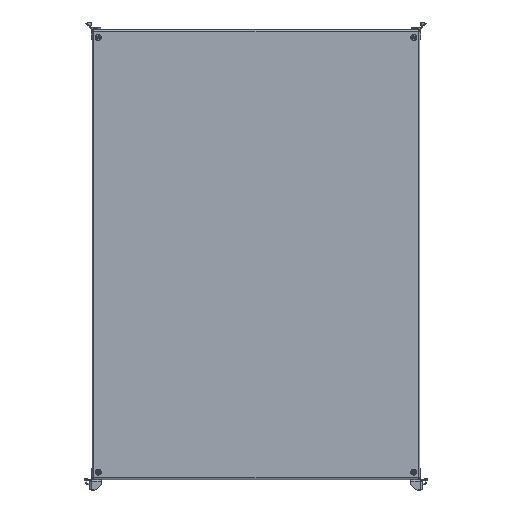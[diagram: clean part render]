
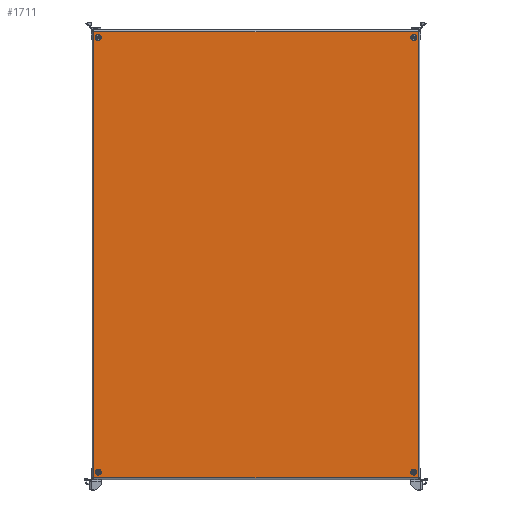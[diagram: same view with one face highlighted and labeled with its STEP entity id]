
A CAD part, top view. The second image highlights one B-rep face of the part: STEP entity #1711.
In plain terms, the highlighted planar face has unit normal (0, 0, 1).
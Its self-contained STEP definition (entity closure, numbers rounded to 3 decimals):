
#1711=ADVANCED_FACE('',(#9113,#9115,#9117,#9119,#9121),#9123,.T.);
#9113=FACE_BOUND('',#9114,.T.);
#9114=EDGE_LOOP('',(#16128,#16129,#16130,#16131));
#9115=FACE_BOUND('',#9116,.T.);
#9116=EDGE_LOOP('',(#16132));
#9117=FACE_BOUND('',#9118,.T.);
#9118=EDGE_LOOP('',(#16133));
#9119=FACE_BOUND('',#9120,.T.);
#9120=EDGE_LOOP('',(#16134));
#9121=FACE_BOUND('',#9122,.T.);
#9122=EDGE_LOOP('',(#16135));
#9123=PLANE('',#9124);
#9124=AXIS2_PLACEMENT_3D('',#9125,#9126,#9127);
#9125=CARTESIAN_POINT('',(0.,0.,3.));
#9126=DIRECTION('',(0.,0.,1.));
#9127=DIRECTION('',(1.,0.,0.));
#16128=ORIENTED_EDGE('',*,*,#19785,.T.);
#16129=ORIENTED_EDGE('',*,*,#19632,.T.);
#16130=ORIENTED_EDGE('',*,*,#19786,.T.);
#16131=ORIENTED_EDGE('',*,*,#19787,.T.);
#16132=ORIENTED_EDGE('',*,*,#19788,.T.);
#16133=ORIENTED_EDGE('',*,*,#19789,.T.);
#16134=ORIENTED_EDGE('',*,*,#19790,.T.);
#16135=ORIENTED_EDGE('',*,*,#19791,.T.);
#19632=EDGE_CURVE('',#21874,#21876,#21878,.T.);
#19785=EDGE_CURVE('',#22115,#21874,#22116,.T.);
#19786=EDGE_CURVE('',#21876,#22117,#22118,.T.);
#19787=EDGE_CURVE('',#22117,#22115,#22119,.T.);
#19788=EDGE_CURVE('',#22120,#22120,#22121,.F.);
#19789=EDGE_CURVE('',#22122,#22122,#22123,.F.);
#19790=EDGE_CURVE('',#22124,#22124,#22125,.F.);
#19791=EDGE_CURVE('',#22126,#22126,#22127,.F.);
#21874=VERTEX_POINT('',#27312);
#21876=VERTEX_POINT('',#27317);
#21878=LINE('',#27322,#27323);
#22115=VERTEX_POINT('',#27909);
#22116=LINE('',#27910,#27911);
#22117=VERTEX_POINT('',#27913);
#22118=LINE('',#27914,#27915);
#22119=LINE('',#27917,#27918);
#22120=VERTEX_POINT('',#27920);
#22121=CIRCLE('',#27921,10.);
#22122=VERTEX_POINT('',#27925);
#22123=CIRCLE('',#27926,10.);
#22124=VERTEX_POINT('',#27930);
#22125=CIRCLE('',#27931,10.);
#22126=VERTEX_POINT('',#27935);
#22127=CIRCLE('',#27936,10.);
#27312=CARTESIAN_POINT('',(5.6,1484.4,3.));
#27317=CARTESIAN_POINT('',(5.6,5.6,3.));
#27322=CARTESIAN_POINT('',(5.6,1484.4,3.));
#27323=VECTOR('',#27324,1.);
#27324=DIRECTION('',(0.,-1.,0.));
#27909=CARTESIAN_POINT('',(1079.4,1484.4,3.));
#27910=CARTESIAN_POINT('',(1079.4,1484.4,3.));
#27911=VECTOR('',#27912,1.);
#27912=DIRECTION('',(-1.,0.,0.));
#27913=CARTESIAN_POINT('',(1079.4,5.6,3.));
#27914=CARTESIAN_POINT('',(5.6,5.6,3.));
#27915=VECTOR('',#27916,1.);
#27916=DIRECTION('',(1.,0.,0.));
#27917=CARTESIAN_POINT('',(1079.4,5.6,3.));
#27918=VECTOR('',#27919,1.);
#27919=DIRECTION('',(0.,1.,0.));
#27920=CARTESIAN_POINT('',(30.,25.,3.));
#27921=AXIS2_PLACEMENT_3D('',#27922,#27923,#27924);
#27922=CARTESIAN_POINT('',(20.,25.,3.));
#27923=DIRECTION('',(0.,0.,1.));
#27924=DIRECTION('',(1.,0.,0.));
#27925=CARTESIAN_POINT('',(1075.,1465.,3.));
#27926=AXIS2_PLACEMENT_3D('',#27927,#27928,#27929);
#27927=CARTESIAN_POINT('',(1065.,1465.,3.));
#27928=DIRECTION('',(0.,0.,1.));
#27929=DIRECTION('',(1.,0.,0.));
#27930=CARTESIAN_POINT('',(30.,1465.,3.));
#27931=AXIS2_PLACEMENT_3D('',#27932,#27933,#27934);
#27932=CARTESIAN_POINT('',(20.,1465.,3.));
#27933=DIRECTION('',(0.,0.,1.));
#27934=DIRECTION('',(1.,0.,0.));
#27935=CARTESIAN_POINT('',(1075.,25.,3.));
#27936=AXIS2_PLACEMENT_3D('',#27937,#27938,#27939);
#27937=CARTESIAN_POINT('',(1065.,25.,3.));
#27938=DIRECTION('',(0.,0.,1.));
#27939=DIRECTION('',(1.,0.,0.));
